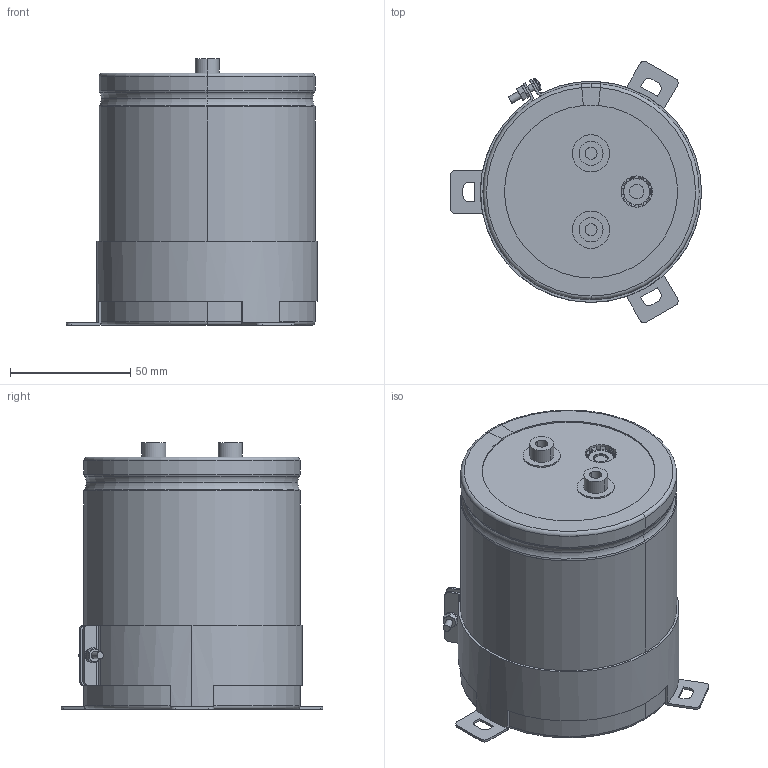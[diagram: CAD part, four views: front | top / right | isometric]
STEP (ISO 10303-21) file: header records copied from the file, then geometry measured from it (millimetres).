
FILE_DESCRIPTION(('STEP AP214'),'1');
FILE_NAME('90x105_Screw.stp','2022-03-14T08:00:48',(' '),(' '),'Spatial InterOp 3D',' ',' ');
FILE_SCHEMA(('AUTOMOTIVE_DESIGN { 1 0 10303 214 1 1 1 1 }'));
Length unit declared in the file: metre
Products named in the file (10): 90x105_Screw; Component1; Component2; Component3; Component4; Component5; Component6; Component7; Component8; Component9
Assembly tree (9 placements, depth 2):
  90x105_Screw
    Component1
    Component2
    Component3
    Component4
    Component5
    Component6
    Component7
    Component8
    Component9
Bounding box: 104.5 x 108.86 x 111 mm (x, y, z)
Volume: 670541.5 mm3; surface area: 128768.4 mm2
Topology: 9 solids, 9 shells, 352 faces, 873 edges, 551 vertices
Faces by surface type: plane 112, cylinder 110, torus 90, cone 38, sphere 2
Entity records: 11474 total; most frequent: DIRECTION 2126, CARTESIAN_POINT 1918, ORIENTED_EDGE 1746, AXIS2_PLACEMENT_3D 919, EDGE_CURVE 873, VERTEX_POINT 551, CIRCLE 511, EDGE_LOOP 380
